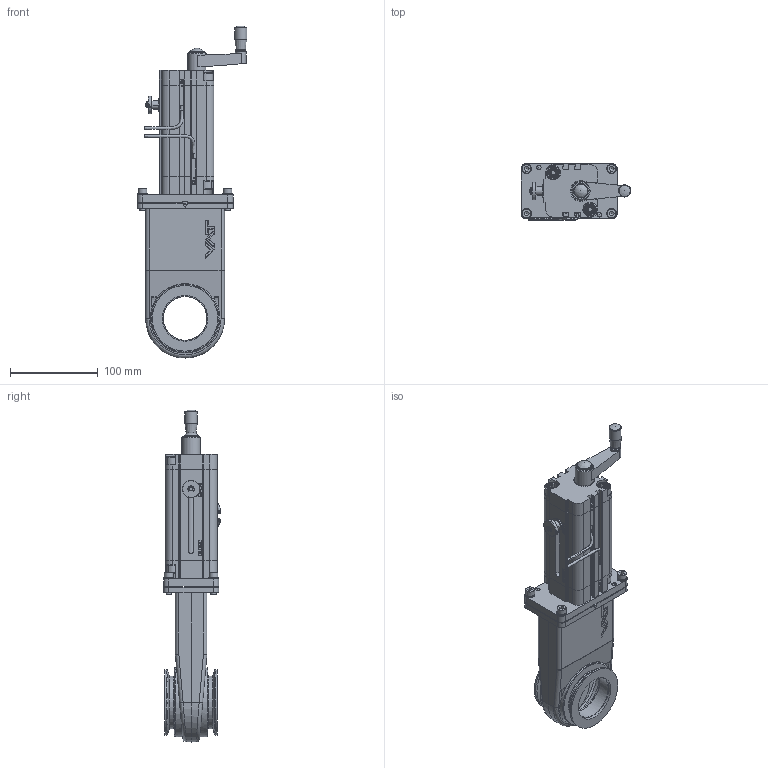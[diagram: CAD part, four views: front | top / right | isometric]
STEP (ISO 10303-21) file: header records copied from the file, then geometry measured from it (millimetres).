
FILE_DESCRIPTION(/* description */ (''),/* implementation_level */ '2;1');
FILE_NAME(/* name */ '1120755697_203.stp',/* time_stamp */ '2020-11-09T15:22:01+01:00',/* author */ (''),/* organization */ (''),/* preprocessor_version */ 'ST-DEVELOPER v16.7',/* originating_system */ 'SIEMENS PLM Software NX 1899',/* authorisation */ '');
FILE_SCHEMA (('AP203_CONFIGURATION_CONTROLLED_3D_DESIGN_OF_MECHANICAL_PARTS_AND_ASSEMBLIES_MIM_LF { 1 0 10303 403 2 1 2}'));
Products named in the file (41): 441927_30235ID; 441927_30234ID; 342971.1; 401443; 350432.7_30214ID; 350432.7_30217ID; 350540.2_30216ID; 210312.2; 420794; 401511; 395842; n-6195-408; n-6148-032; 356291.4; 260722.6; 236264.2; 301638.1; 259432.1; n-6099-416.1; N-6066-008.1; 332680.2; 401447; 260826.1; 301646.1; 401446; N-6067-007.1; N-6092-118.1; 350553.3; 351562.6_30212ID; 351562.6_30207ID; 218189; n-6134-408; 702929_MODEL; 702930_MODEL; 702981_MODELNX-ARRAGMNTDN 050; 401441; 401437_NX-ARRAGMNTOpen; 350837.2; 351438.6; 351568.10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
Assembly tree (51 placements, depth 4):
  558537
    n-6134-408  x4
    351568.10
      351562.6_30207ID
      351562.6_30212ID
      351438.6
        350540.2_30216ID
        350432.7_30217ID
        350432.7_30214ID
    218189  x4
    350837.2
      350553.3
      N-6092-118.1  x2
    401437_NX-ARRAGMNTOpen
      401441
        401443
        342971.1  x2
      N-6067-007.1
      401446
      301646.1
      260826.1
      401447
      332680.2
      N-6066-008.1
      n-6099-416.1
      259432.1
      301638.1
      236264.2
      260722.6
      356291.4
      n-6148-032
      n-6195-408
      395842
      401511
      420794  x4
      210312.2
    702981_MODELNX-ARRAGMNTDN 050
      702930_MODEL
        441927_30234ID
      702929_MODEL
        441927_30235ID
Bounding box: 125.25 x 65.01 x 378.83 mm (x, y, z)
Volume: 572546.8 mm3; surface area: 273544.6 mm2
Topology: 53 solids, 54 shells, 1899 faces, 4996 edges, 3277 vertices
Faces by surface type: plane 868, cylinder 528, bspline 229, cone 107, extrusion 96, revolution 38, sphere 20, torus 13
Full cylindrical faces by diameter (mm): 1.4 x1, 2 x3, 2.2 x1, 2.9 x1, 3.17 x1, 4 x2, 4.96 x4, 4.976 x2, 4.985 x1, 5 x19, 5.2 x2, 5.3 x1, 5.96 x2, 6 x11, 6.1 x1, 6.4 x5, 6.5 x7, 6.6 x1, 7.841 x1, 7.881 x1, 8 x7, 8.1 x1, 8.115 x1, 8.4 x4, 8.5 x30, 8.8 x1, 9 x1, 9.022 x4, 10 x4, 10.281 x1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
Entity records: 98480 total; most frequent: CARTESIAN_POINT 52245, ORIENTED_EDGE 8282, DIRECTION 6567, EDGE_CURVE 4141, VERTEX_POINT 2878, AXIS2_PLACEMENT_3D 2238, EDGE_LOOP 2078, VECTOR 2077
